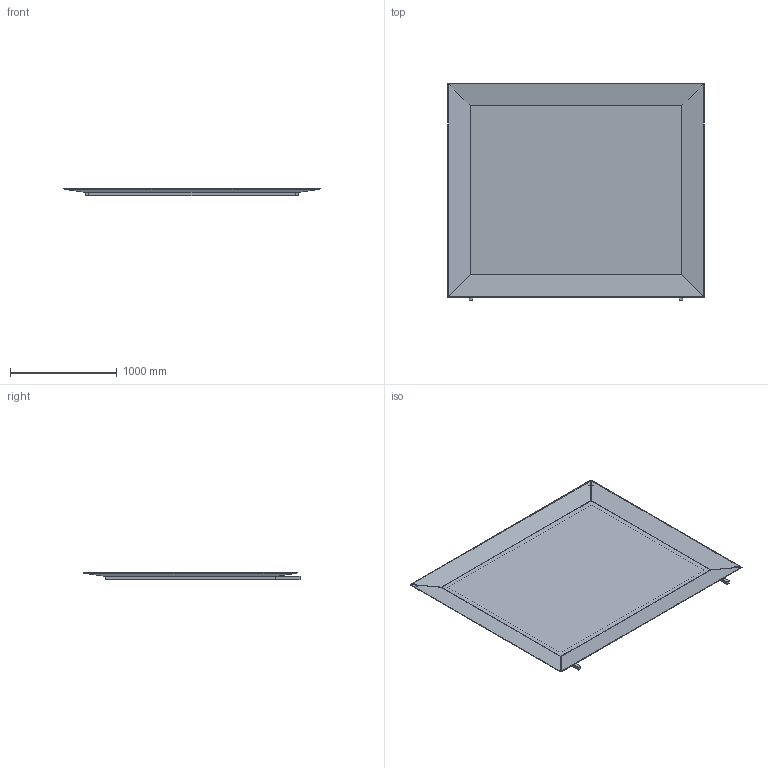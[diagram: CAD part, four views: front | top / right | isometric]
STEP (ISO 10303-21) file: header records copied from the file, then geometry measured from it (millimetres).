
FILE_DESCRIPTION((''),'2;1');
FILE_NAME('C:\AutodeskVault\AreaLavoro\Progetti\SoVeT Italia\3. Specchi_Mirrors\Denver\Web file\Denver Web\P5055.stp','2012-07-23T14:21:18',('Gianluca'),('So.Ve.T. s.r.l.'),'Autodesk Inventor 2013','Autodesk Inventor 2013','IL PROGETTO E'' DI ESCLUSIVA PROPRIETA'' DELLA SO.VE.T. srl. E'' VIETATA OGNI RIPRODUZIONE TOTALE O PARZIALE E QUALSIASI UTILIZZO NON AUTORIZZATO. ');
FILE_SCHEMA(('AUTOMOTIVE_DESIGN { 1 0 10303 214 1 1 1 1 }'));
Length unit declared in the file: millimetre
Products named in the file (1): P5055 Contorno semplificato
Bounding box: 2406.01 x 2038.01 x 67.41 mm (x, y, z)
Volume: 44169159.3 mm3; surface area: 20121812.3 mm2
Topology: 2 solids, 2 shells, 390 faces, 932 edges, 520 vertices
Faces by surface type: plane 230, cylinder 112, torus 16, sphere 16, bspline 16
Entity records: 11662 total; most frequent: CARTESIAN_POINT 2379, ORIENTED_EDGE 1832, DIRECTION 1822, EDGE_CURVE 916, VECTOR 672, LINE 672, AXIS2_PLACEMENT_3D 575, VERTEX_POINT 520
